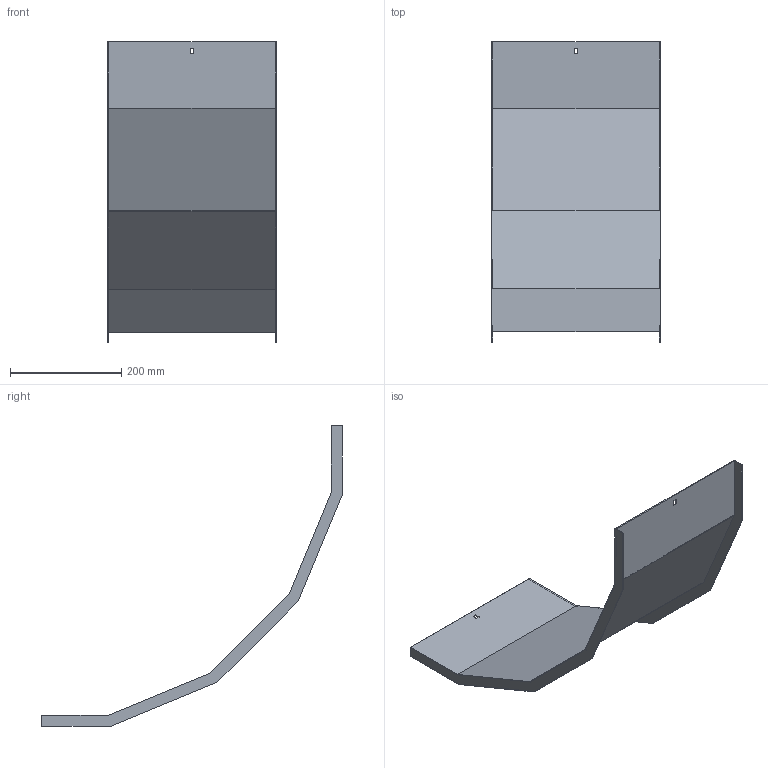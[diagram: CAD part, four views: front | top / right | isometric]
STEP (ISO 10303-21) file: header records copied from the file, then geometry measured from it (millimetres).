
FILE_DESCRIPTION (( 'STEP AP214' ), '1' );
FILE_NAME ('30N5R300_H150.step', '2025-02-21T14:29:34', ( '' ), ( '' ), 'SwSTEP 2.0', 'SolidWorks 2023', '' );
FILE_SCHEMA (( 'AUTOMOTIVE_DESIGN' ));
Length unit declared in the file: millimetre
Products named in the file (1): 30N5R300_H150
Bounding box: 303 x 540.72 x 540.72 mm (x, y, z)
Volume: 428186.3 mm3; surface area: 574631 mm2
Topology: 1 solids, 1 shells, 34 faces, 96 edges, 64 vertices
Faces by surface type: plane 34
Entity records: 1111 total; most frequent: CARTESIAN_POINT 195, ORIENTED_EDGE 192, DIRECTION 166, VECTOR 96, EDGE_CURVE 96, LINE 96, VERTEX_POINT 64, EDGE_LOOP 38
